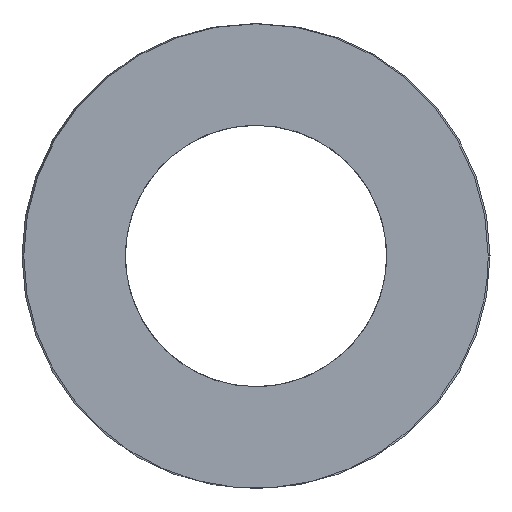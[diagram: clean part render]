
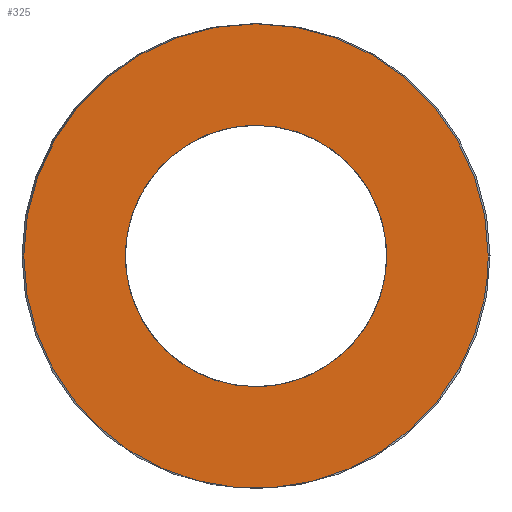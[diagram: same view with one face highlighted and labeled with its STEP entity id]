
A CAD part, left-side view. The second image highlights one B-rep face of the part: STEP entity #325.
In plain terms, the highlighted planar face has unit normal (-1, 0, 0).
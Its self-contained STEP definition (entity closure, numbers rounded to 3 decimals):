
#63=CARTESIAN_POINT('Vertex',(0.,18.75,0.)) ;
#89=CARTESIAN_POINT('Vertex',(0.,-18.75,0.)) ;
#93=CARTESIAN_POINT('Control Point',(0.,18.75,0.)) ;
#94=CARTESIAN_POINT('Control Point',(0.,18.75,-2.945)) ;
#95=CARTESIAN_POINT('Control Point',(0.,18.172,-5.89)) ;
#96=CARTESIAN_POINT('Control Point',(0.,17.015,-8.684)) ;
#97=CARTESIAN_POINT('Control Point',(0.,13.667,-13.667)) ;
#98=CARTESIAN_POINT('Control Point',(0.,8.684,-17.015)) ;
#99=CARTESIAN_POINT('Control Point',(0.,5.89,-18.172)) ;
#100=CARTESIAN_POINT('Control Point',(0.,0.,-19.328)) ;
#101=CARTESIAN_POINT('Control Point',(0.,-5.89,-18.172)) ;
#102=CARTESIAN_POINT('Control Point',(0.,-8.684,-17.015)) ;
#103=CARTESIAN_POINT('Control Point',(0.,-13.667,-13.667)) ;
#104=CARTESIAN_POINT('Control Point',(0.,-17.015,-8.684)) ;
#105=CARTESIAN_POINT('Control Point',(0.,-18.172,-5.89)) ;
#106=CARTESIAN_POINT('Control Point',(0.,-18.75,-2.945)) ;
#107=CARTESIAN_POINT('Control Point',(0.,-18.75,0.)) ;
#121=CARTESIAN_POINT('Axis2P3D Location',(0.,0.,0.)) ;
#256=CARTESIAN_POINT('Axis2P3D Location',(0.,9.375,0.)) ;
#266=CARTESIAN_POINT('Control Point',(0.,0.,-10.55)) ;
#267=CARTESIAN_POINT('Control Point',(0.,0.955,-10.55)) ;
#268=CARTESIAN_POINT('Control Point',(0.,1.909,-10.442)) ;
#269=CARTESIAN_POINT('Control Point',(0.,2.848,-10.226)) ;
#270=CARTESIAN_POINT('Control Point',(0.,4.66,-9.585)) ;
#271=CARTESIAN_POINT('Control Point',(0.,6.283,-8.556)) ;
#272=CARTESIAN_POINT('Control Point',(0.,7.032,-7.952)) ;
#273=CARTESIAN_POINT('Control Point',(0.,8.381,-6.584)) ;
#274=CARTESIAN_POINT('Control Point',(0.,9.391,-4.949)) ;
#275=CARTESIAN_POINT('Control Point',(0.,9.801,-4.077)) ;
#276=CARTESIAN_POINT('Control Point',(0.,10.416,-2.257)) ;
#277=CARTESIAN_POINT('Control Point',(0.,10.61,-0.345)) ;
#278=CARTESIAN_POINT('Control Point',(0.,10.597,0.618)) ;
#279=CARTESIAN_POINT('Control Point',(0.,10.355,2.524)) ;
#280=CARTESIAN_POINT('Control Point',(0.,9.693,4.328)) ;
#281=CARTESIAN_POINT('Control Point',(0.,9.26,5.189)) ;
#282=CARTESIAN_POINT('Control Point',(0.,8.209,6.797)) ;
#283=CARTESIAN_POINT('Control Point',(0.,6.825,8.13)) ;
#284=CARTESIAN_POINT('Control Point',(0.,6.06,8.715)) ;
#285=CARTESIAN_POINT('Control Point',(0.,4.458,9.674)) ;
#286=CARTESIAN_POINT('Control Point',(0.,2.687,10.262)) ;
#287=CARTESIAN_POINT('Control Point',(0.,1.801,10.454)) ;
#288=CARTESIAN_POINT('Control Point',(0.,0.9,10.55)) ;
#289=CARTESIAN_POINT('Control Point',(0.,0.,10.55)) ;
#290=CARTESIAN_POINT('Vertex',(0.,0.,-10.55)) ;
#292=CARTESIAN_POINT('Vertex',(0.,0.,10.55)) ;
#296=CARTESIAN_POINT('Control Point',(0.,0.,10.55)) ;
#297=CARTESIAN_POINT('Control Point',(0.,-0.955,10.55)) ;
#298=CARTESIAN_POINT('Control Point',(0.,-1.909,10.442)) ;
#299=CARTESIAN_POINT('Control Point',(0.,-2.848,10.226)) ;
#300=CARTESIAN_POINT('Control Point',(0.,-4.66,9.585)) ;
#301=CARTESIAN_POINT('Control Point',(0.,-6.283,8.556)) ;
#302=CARTESIAN_POINT('Control Point',(0.,-7.032,7.952)) ;
#303=CARTESIAN_POINT('Control Point',(0.,-8.381,6.584)) ;
#304=CARTESIAN_POINT('Control Point',(0.,-9.391,4.949)) ;
#305=CARTESIAN_POINT('Control Point',(0.,-9.801,4.077)) ;
#306=CARTESIAN_POINT('Control Point',(0.,-10.416,2.257)) ;
#307=CARTESIAN_POINT('Control Point',(0.,-10.61,0.345)) ;
#308=CARTESIAN_POINT('Control Point',(0.,-10.597,-0.618)) ;
#309=CARTESIAN_POINT('Control Point',(0.,-10.355,-2.524)) ;
#310=CARTESIAN_POINT('Control Point',(0.,-9.693,-4.328)) ;
#311=CARTESIAN_POINT('Control Point',(0.,-9.26,-5.189)) ;
#312=CARTESIAN_POINT('Control Point',(0.,-8.209,-6.797)) ;
#313=CARTESIAN_POINT('Control Point',(0.,-6.825,-8.13)) ;
#314=CARTESIAN_POINT('Control Point',(0.,-6.06,-8.715)) ;
#315=CARTESIAN_POINT('Control Point',(0.,-4.458,-9.674)) ;
#316=CARTESIAN_POINT('Control Point',(0.,-2.687,-10.262)) ;
#317=CARTESIAN_POINT('Control Point',(0.,-1.801,-10.454)) ;
#318=CARTESIAN_POINT('Control Point',(0.,-0.9,-10.55)) ;
#319=CARTESIAN_POINT('Control Point',(0.,0.,-10.55)) ;
#122=DIRECTION('Axis2P3D Direction',(1.,-0.,0.)) ;
#257=DIRECTION('Axis2P3D Direction',(-1.,0.,0.)) ;
#258=DIRECTION('Axis2P3D XDirection',(0.,1.,0.)) ;
#123=AXIS2_PLACEMENT_3D('Circle Axis2P3D',#121,#122,$) ;
#259=AXIS2_PLACEMENT_3D('Plane Axis2P3D',#256,#257,#258) ;
#262=ORIENTED_EDGE('',*,*,#108,.T.) ;
#263=ORIENTED_EDGE('',*,*,#125,.T.) ;
#322=ORIENTED_EDGE('',*,*,#294,.T.) ;
#323=ORIENTED_EDGE('',*,*,#320,.T.) ;
#324=FACE_BOUND('',#321,.T.) ;
#325=ADVANCED_FACE('392-B40-115',(#264,#324),#260,.T.) ;
#92=B_SPLINE_CURVE_WITH_KNOTS('',5,(#93,#94,#95,#96,#97,#98,#99,#100,#101,#102,#103,#104,#105,#106,#107),.UNSPECIFIED.,.F.,.U.,(6,3,3,3,6),(-29.452,-14.726,0.,14.726,29.452),.UNSPECIFIED.) ;
#265=B_SPLINE_CURVE_WITH_KNOTS('',5,(#266,#267,#268,#269,#270,#271,#272,#273,#274,#275,#276,#277,#278,#279,#280,#281,#282,#283,#284,#285,#286,#287,#288,#289),.UNSPECIFIED.,.F.,.U.,(6,3,3,3,3,3,3,6),(0.,6.751,13.502,20.253,27.004,33.755,40.506,46.872),.UNSPECIFIED.) ;
#295=B_SPLINE_CURVE_WITH_KNOTS('',5,(#296,#297,#298,#299,#300,#301,#302,#303,#304,#305,#306,#307,#308,#309,#310,#311,#312,#313,#314,#315,#316,#317,#318,#319),.UNSPECIFIED.,.F.,.U.,(6,3,3,3,3,3,3,6),(0.,6.751,13.502,20.253,27.004,33.755,40.506,46.872),.UNSPECIFIED.) ;
#124=CIRCLE('generated circle',#123,18.75) ;
#108=EDGE_CURVE('',#64,#90,#92,.T.) ;
#125=EDGE_CURVE('',#90,#64,#124,.F.) ;
#294=EDGE_CURVE('',#291,#293,#265,.T.) ;
#320=EDGE_CURVE('',#293,#291,#295,.T.) ;
#261=EDGE_LOOP('',(#262,#263)) ;
#321=EDGE_LOOP('',(#322,#323)) ;
#264=FACE_OUTER_BOUND('',#261,.T.) ;
#260=PLANE('Plane',#259) ;
#64=VERTEX_POINT('',#63) ;
#90=VERTEX_POINT('',#89) ;
#291=VERTEX_POINT('',#290) ;
#293=VERTEX_POINT('',#292) ;
